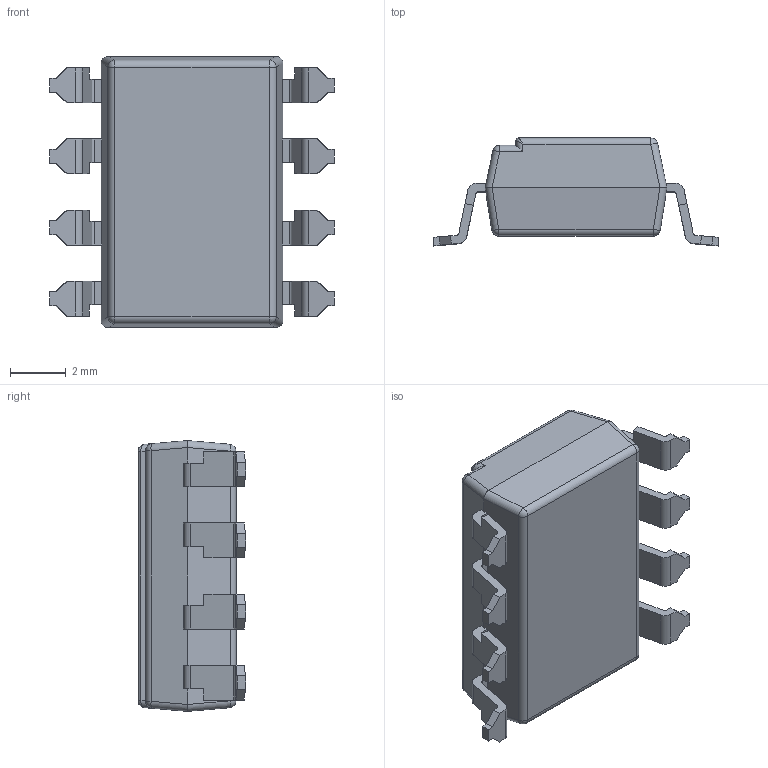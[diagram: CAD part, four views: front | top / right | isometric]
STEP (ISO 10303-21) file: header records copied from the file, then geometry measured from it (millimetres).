
FILE_DESCRIPTION(/* description */ ('STEP AP203'),/* implementation_level */ '2;1');
FILE_NAME(/* name */ 'H:\COPYBOX\Miro\Achim Kruck\SMD-8\SMD-8.stp',/* time_stamp */ '2018-10-11T14:46:01+02:00',/* author */ ('mmangarudov'),/* organization */ (''),/* preprocessor_version */ 'ST-DEVELOPER v16.1',/* originating_system */ 'Autodesk Inventor 2016',/* authorisation */ '');
FILE_SCHEMA (('AUTOMOTIVE_DESIGN { 1 0 10303 214 3 1 1 }'));
Length unit declared in the file: millimetre
Products named in the file (1): 8P-S
Bounding box: 10.16 x 3.85 x 9.68 mm (x, y, z)
Volume: 211.4 mm3; surface area: 284.6 mm2
Topology: 1 solids, 1 shells, 197 faces, 565 edges, 360 vertices
Faces by surface type: plane 132, cylinder 53, sphere 8, bspline 4
Entity records: 6473 total; most frequent: CARTESIAN_POINT 1237, ORIENTED_EDGE 1110, DIRECTION 1047, EDGE_CURVE 555, LINE 443, VECTOR 443, VERTEX_POINT 360, AXIS2_PLACEMENT_3D 302
